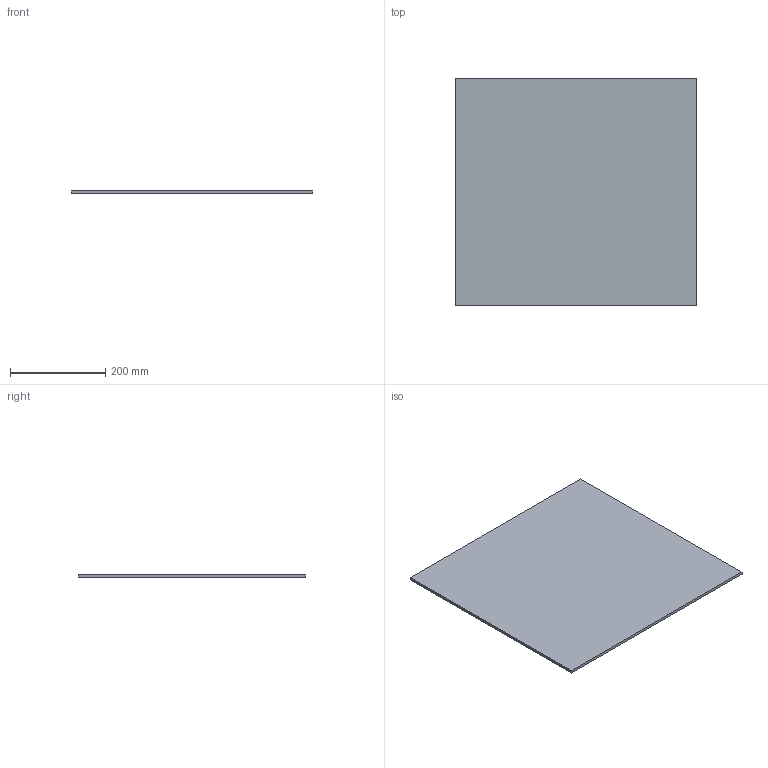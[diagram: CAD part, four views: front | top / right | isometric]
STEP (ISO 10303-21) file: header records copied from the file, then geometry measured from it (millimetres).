
FILE_DESCRIPTION (( 'STEP AP214' ), '1' );
FILE_NAME ('Lochblech_NL500_KAB600_16.step', '2010-10-11T13:38:33', ( 'grass' ), ( '' ), 'SwSTEP 2.0', 'SolidWorks 2010', '' );
FILE_SCHEMA (( 'AUTOMOTIVE_DESIGN' ));
Length unit declared in the file: millimetre
Products named in the file (1): Lochblech_NL500_KAB600_16
Bounding box: 508 x 479 x 6 mm (x, y, z)
Volume: 1459992 mm3; surface area: 498508 mm2
Topology: 1 solids, 1 shells, 6 faces, 12 edges, 8 vertices
Faces by surface type: plane 6
Entity records: 190 total; most frequent: CARTESIAN_POINT 27, DIRECTION 26, ORIENTED_EDGE 24, EDGE_CURVE 12, VECTOR 12, LINE 12, VERTEX_POINT 8, AXIS2_PLACEMENT_3D 7
